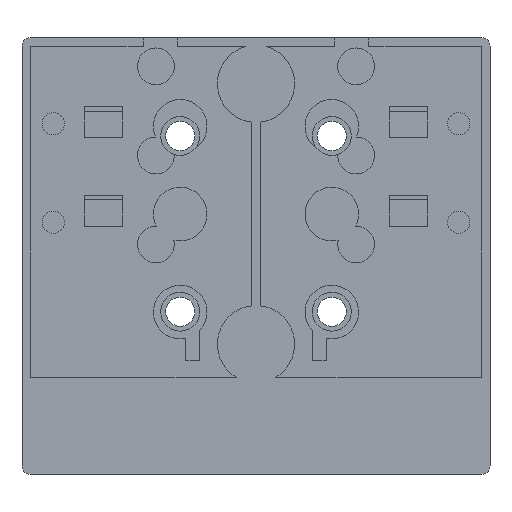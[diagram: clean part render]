
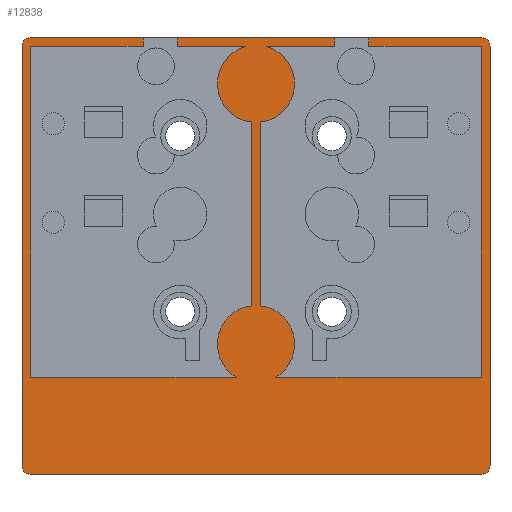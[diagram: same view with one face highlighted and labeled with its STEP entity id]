
A CAD part, front view. The second image highlights one B-rep face of the part: STEP entity #12838.
In plain terms, the highlighted planar face has unit normal (0, -1, 0).
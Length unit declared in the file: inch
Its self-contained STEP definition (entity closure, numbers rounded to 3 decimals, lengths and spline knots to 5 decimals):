
#658=PLANE('',#13779);
#1144=FACE_OUTER_BOUND('',#1890,.T.);
#1890=EDGE_LOOP('',(#8943,#8944,#8945,#8946,#8947,#8948,#8949,#8950,#8951,
#8952,#8953,#8954,#8955,#8956,#8957,#8958,#8959,#8960,#8961,#8962,#8963,
#8964,#8965,#8966,#8967,#8968,#8969,#8970));
#2703=LINE('',#18069,#4067);
#2730=LINE('',#18156,#4094);
#2731=LINE('',#18160,#4095);
#2732=LINE('',#18162,#4096);
#2733=LINE('',#18164,#4097);
#2734=LINE('',#18166,#4098);
#2735=LINE('',#18168,#4099);
#2736=LINE('',#18172,#4100);
#2737=LINE('',#18176,#4101);
#2738=LINE('',#18178,#4102);
#2739=LINE('',#18180,#4103);
#2740=LINE('',#18182,#4104);
#2741=LINE('',#18184,#4105);
#2742=LINE('',#18188,#4106);
#2743=LINE('',#18192,#4107);
#2744=LINE('',#18194,#4108);
#2745=LINE('',#18196,#4109);
#2746=LINE('',#18198,#4110);
#2747=LINE('',#18200,#4111);
#2748=LINE('',#18203,#4112);
#4067=VECTOR('',#14749,0.3937);
#4094=VECTOR('',#14814,0.3937);
#4095=VECTOR('',#14817,0.3937);
#4096=VECTOR('',#14818,0.3937);
#4097=VECTOR('',#14819,0.3937);
#4098=VECTOR('',#14820,0.3937);
#4099=VECTOR('',#14821,0.3937);
#4100=VECTOR('',#14824,0.3937);
#4101=VECTOR('',#14827,0.3937);
#4102=VECTOR('',#14828,0.3937);
#4103=VECTOR('',#14829,0.3937);
#4104=VECTOR('',#14830,0.3937);
#4105=VECTOR('',#14831,0.3937);
#4106=VECTOR('',#14834,0.3937);
#4107=VECTOR('',#14837,0.3937);
#4108=VECTOR('',#14838,0.3937);
#4109=VECTOR('',#14839,0.3937);
#4110=VECTOR('',#14840,0.3937);
#4111=VECTOR('',#14841,0.3937);
#4112=VECTOR('',#14844,0.3937);
#5427=CIRCLE('',#13758,0.06);
#5444=CIRCLE('',#13778,0.06);
#5445=CIRCLE('',#13780,0.06);
#5446=CIRCLE('',#13781,0.277);
#5447=CIRCLE('',#13782,0.277);
#5448=CIRCLE('',#13783,0.277);
#5449=CIRCLE('',#13784,0.277);
#5450=CIRCLE('',#13785,0.06);
#5718=VERTEX_POINT('',#18056);
#5719=VERTEX_POINT('',#18057);
#5723=VERTEX_POINT('',#18067);
#5763=VERTEX_POINT('',#18151);
#5764=VERTEX_POINT('',#18155);
#5765=VERTEX_POINT('',#18157);
#5766=VERTEX_POINT('',#18159);
#5767=VERTEX_POINT('',#18161);
#5768=VERTEX_POINT('',#18163);
#5769=VERTEX_POINT('',#18165);
#5770=VERTEX_POINT('',#18167);
#5771=VERTEX_POINT('',#18169);
#5772=VERTEX_POINT('',#18171);
#5773=VERTEX_POINT('',#18173);
#5774=VERTEX_POINT('',#18175);
#5775=VERTEX_POINT('',#18177);
#5776=VERTEX_POINT('',#18179);
#5777=VERTEX_POINT('',#18181);
#5778=VERTEX_POINT('',#18183);
#5779=VERTEX_POINT('',#18185);
#5780=VERTEX_POINT('',#18187);
#5781=VERTEX_POINT('',#18189);
#5782=VERTEX_POINT('',#18191);
#5783=VERTEX_POINT('',#18193);
#5784=VERTEX_POINT('',#18195);
#5785=VERTEX_POINT('',#18197);
#5786=VERTEX_POINT('',#18199);
#5787=VERTEX_POINT('',#18201);
#6970=EDGE_CURVE('',#5718,#5719,#5427,.T.);
#6976=EDGE_CURVE('',#5718,#5723,#2703,.T.);
#7018=EDGE_CURVE('',#5763,#5723,#5444,.T.);
#7019=EDGE_CURVE('',#5764,#5763,#2730,.T.);
#7020=EDGE_CURVE('',#5765,#5764,#5445,.T.);
#7021=EDGE_CURVE('',#5766,#5765,#2731,.T.);
#7022=EDGE_CURVE('',#5766,#5767,#2732,.T.);
#7023=EDGE_CURVE('',#5767,#5768,#2733,.T.);
#7024=EDGE_CURVE('',#5768,#5769,#2734,.T.);
#7025=EDGE_CURVE('',#5770,#5769,#2735,.T.);
#7026=EDGE_CURVE('',#5771,#5770,#5446,.T.);
#7027=EDGE_CURVE('',#5772,#5771,#2736,.T.);
#7028=EDGE_CURVE('',#5773,#5772,#5447,.T.);
#7029=EDGE_CURVE('',#5773,#5774,#2737,.T.);
#7030=EDGE_CURVE('',#5774,#5775,#2738,.T.);
#7031=EDGE_CURVE('',#5776,#5775,#2739,.T.);
#7032=EDGE_CURVE('',#5776,#5777,#2740,.T.);
#7033=EDGE_CURVE('',#5777,#5778,#2741,.T.);
#7034=EDGE_CURVE('',#5779,#5778,#5448,.T.);
#7035=EDGE_CURVE('',#5780,#5779,#2742,.T.);
#7036=EDGE_CURVE('',#5781,#5780,#5449,.T.);
#7037=EDGE_CURVE('',#5782,#5781,#2743,.T.);
#7038=EDGE_CURVE('',#5782,#5783,#2744,.T.);
#7039=EDGE_CURVE('',#5783,#5784,#2745,.T.);
#7040=EDGE_CURVE('',#5784,#5785,#2746,.T.);
#7041=EDGE_CURVE('',#5786,#5785,#2747,.T.);
#7042=EDGE_CURVE('',#5787,#5786,#5450,.T.);
#7043=EDGE_CURVE('',#5719,#5787,#2748,.T.);
#8943=ORIENTED_EDGE('',*,*,#6970,.F.);
#8944=ORIENTED_EDGE('',*,*,#6976,.T.);
#8945=ORIENTED_EDGE('',*,*,#7018,.F.);
#8946=ORIENTED_EDGE('',*,*,#7019,.F.);
#8947=ORIENTED_EDGE('',*,*,#7020,.F.);
#8948=ORIENTED_EDGE('',*,*,#7021,.F.);
#8949=ORIENTED_EDGE('',*,*,#7022,.T.);
#8950=ORIENTED_EDGE('',*,*,#7023,.T.);
#8951=ORIENTED_EDGE('',*,*,#7024,.T.);
#8952=ORIENTED_EDGE('',*,*,#7025,.F.);
#8953=ORIENTED_EDGE('',*,*,#7026,.F.);
#8954=ORIENTED_EDGE('',*,*,#7027,.F.);
#8955=ORIENTED_EDGE('',*,*,#7028,.F.);
#8956=ORIENTED_EDGE('',*,*,#7029,.T.);
#8957=ORIENTED_EDGE('',*,*,#7030,.T.);
#8958=ORIENTED_EDGE('',*,*,#7031,.F.);
#8959=ORIENTED_EDGE('',*,*,#7032,.T.);
#8960=ORIENTED_EDGE('',*,*,#7033,.T.);
#8961=ORIENTED_EDGE('',*,*,#7034,.F.);
#8962=ORIENTED_EDGE('',*,*,#7035,.F.);
#8963=ORIENTED_EDGE('',*,*,#7036,.F.);
#8964=ORIENTED_EDGE('',*,*,#7037,.F.);
#8965=ORIENTED_EDGE('',*,*,#7038,.T.);
#8966=ORIENTED_EDGE('',*,*,#7039,.T.);
#8967=ORIENTED_EDGE('',*,*,#7040,.T.);
#8968=ORIENTED_EDGE('',*,*,#7041,.F.);
#8969=ORIENTED_EDGE('',*,*,#7042,.F.);
#8970=ORIENTED_EDGE('',*,*,#7043,.F.);
#12838=ADVANCED_FACE('',(#1144),#658,.T.);
#13758=AXIS2_PLACEMENT_3D('',#18058,#14739,#14740);
#13778=AXIS2_PLACEMENT_3D('',#18153,#14810,#14811);
#13779=AXIS2_PLACEMENT_3D('',#18154,#14812,#14813);
#13780=AXIS2_PLACEMENT_3D('',#18158,#14815,#14816);
#13781=AXIS2_PLACEMENT_3D('',#18170,#14822,#14823);
#13782=AXIS2_PLACEMENT_3D('',#18174,#14825,#14826);
#13783=AXIS2_PLACEMENT_3D('',#18186,#14832,#14833);
#13784=AXIS2_PLACEMENT_3D('',#18190,#14835,#14836);
#13785=AXIS2_PLACEMENT_3D('',#18202,#14842,#14843);
#14739=DIRECTION('center_axis',(0.,1.,0.));
#14740=DIRECTION('ref_axis',(-0.707,0.,-0.707));
#14749=DIRECTION('',(1.,0.,0.));
#14810=DIRECTION('center_axis',(0.,1.,0.));
#14811=DIRECTION('ref_axis',(0.707,0.,-0.707));
#14812=DIRECTION('center_axis',(0.,-1.,0.));
#14813=DIRECTION('ref_axis',(0.,0.,-1.));
#14814=DIRECTION('',(0.,0.,-1.));
#14815=DIRECTION('center_axis',(0.,1.,0.));
#14816=DIRECTION('ref_axis',(0.707,0.,0.707));
#14817=DIRECTION('',(1.,0.,0.));
#14818=DIRECTION('',(0.,0.,-1.));
#14819=DIRECTION('',(1.,0.,0.));
#14820=DIRECTION('',(0.,0.,-1.));
#14821=DIRECTION('',(1.,0.,0.));
#14822=DIRECTION('center_axis',(0.,1.,0.));
#14823=DIRECTION('ref_axis',(-1.,0.,0.));
#14824=DIRECTION('',(0.,0.,-1.));
#14825=DIRECTION('center_axis',(0.,1.,0.));
#14826=DIRECTION('ref_axis',(-1.,0.,0.));
#14827=DIRECTION('',(1.,0.,0.));
#14828=DIRECTION('',(0.,0.,1.));
#14829=DIRECTION('',(1.,0.,0.));
#14830=DIRECTION('',(0.,0.,-1.));
#14831=DIRECTION('',(1.,0.,0.));
#14832=DIRECTION('center_axis',(0.,1.,0.));
#14833=DIRECTION('ref_axis',(-1.,0.,0.));
#14834=DIRECTION('',(0.,0.,1.));
#14835=DIRECTION('center_axis',(0.,1.,0.));
#14836=DIRECTION('ref_axis',(-1.,0.,0.));
#14837=DIRECTION('',(1.,0.,0.));
#14838=DIRECTION('',(0.,0.,1.));
#14839=DIRECTION('',(1.,0.,0.));
#14840=DIRECTION('',(0.,0.,1.));
#14841=DIRECTION('',(1.,0.,0.));
#14842=DIRECTION('center_axis',(0.,1.,0.));
#14843=DIRECTION('ref_axis',(-0.707,0.,0.707));
#14844=DIRECTION('',(0.,0.,1.));
#18056=CARTESIAN_POINT('',(-1.618,0.,-0.53));
#18057=CARTESIAN_POINT('',(-1.678,0.,-0.47));
#18058=CARTESIAN_POINT('Origin',(-1.618,0.,-0.47));
#18067=CARTESIAN_POINT('',(1.618,0.,-0.53));
#18069=CARTESIAN_POINT('',(1.10121,0.,-0.53));
#18151=CARTESIAN_POINT('',(1.678,0.,-0.47));
#18153=CARTESIAN_POINT('Origin',(1.618,0.,-0.47));
#18154=CARTESIAN_POINT('Origin',(0.,0.,0.35));
#18155=CARTESIAN_POINT('',(1.678,0.,2.54));
#18156=CARTESIAN_POINT('',(1.678,0.,2.6));
#18157=CARTESIAN_POINT('',(1.618,0.,2.6));
#18158=CARTESIAN_POINT('Origin',(1.618,0.,2.54));
#18159=CARTESIAN_POINT('',(0.81,0.,2.6));
#18160=CARTESIAN_POINT('',(-1.678,0.,2.6));
#18161=CARTESIAN_POINT('',(0.81,0.,2.5375));
#18162=CARTESIAN_POINT('',(0.81,0.,1.475));
#18163=CARTESIAN_POINT('',(1.6155,0.,2.5375));
#18164=CARTESIAN_POINT('',(-0.839,0.,2.5375));
#18165=CARTESIAN_POINT('',(1.6155,0.,0.165));
#18166=CARTESIAN_POINT('',(1.6155,0.,1.475));
#18167=CARTESIAN_POINT('',(0.14256,0.,0.165));
#18168=CARTESIAN_POINT('',(0.80775,0.,0.165));
#18169=CARTESIAN_POINT('',(0.03125,0.,0.67773));
#18170=CARTESIAN_POINT('Origin',(0.,0.,0.4025));
#18171=CARTESIAN_POINT('',(0.03125,0.,1.99477));
#18172=CARTESIAN_POINT('',(0.03125,0.,0.2575));
#18173=CARTESIAN_POINT('',(0.07192,0.,2.5375));
#18174=CARTESIAN_POINT('Origin',(0.,0.,2.27));
#18175=CARTESIAN_POINT('',(0.565,0.,2.5375));
#18176=CARTESIAN_POINT('',(-0.839,0.,2.5375));
#18177=CARTESIAN_POINT('',(0.565,0.,2.6));
#18178=CARTESIAN_POINT('',(0.565,0.,1.475));
#18179=CARTESIAN_POINT('',(-0.565,0.,2.6));
#18180=CARTESIAN_POINT('',(-1.678,0.,2.6));
#18181=CARTESIAN_POINT('',(-0.565,0.,2.5375));
#18182=CARTESIAN_POINT('',(-0.565,0.,1.475));
#18183=CARTESIAN_POINT('',(-0.07192,0.,2.5375));
#18184=CARTESIAN_POINT('',(-0.839,0.,2.5375));
#18185=CARTESIAN_POINT('',(-0.03125,0.,1.99477));
#18186=CARTESIAN_POINT('Origin',(0.,0.,2.27));
#18187=CARTESIAN_POINT('',(-0.03125,0.,0.67773));
#18188=CARTESIAN_POINT('',(-0.03125,0.,1.44375));
#18189=CARTESIAN_POINT('',(-0.14256,0.,0.165));
#18190=CARTESIAN_POINT('Origin',(0.,0.,0.4025));
#18191=CARTESIAN_POINT('',(-1.6155,0.,0.165));
#18192=CARTESIAN_POINT('',(-0.01562,0.,0.165));
#18193=CARTESIAN_POINT('',(-1.6155,0.,2.5375));
#18194=CARTESIAN_POINT('',(-1.6155,0.,-0.775));
#18195=CARTESIAN_POINT('',(-0.81,0.,2.5375));
#18196=CARTESIAN_POINT('',(-0.839,0.,2.5375));
#18197=CARTESIAN_POINT('',(-0.81,0.,2.6));
#18198=CARTESIAN_POINT('',(-0.81,0.,1.475));
#18199=CARTESIAN_POINT('',(-1.618,0.,2.6));
#18200=CARTESIAN_POINT('',(-1.678,0.,2.6));
#18201=CARTESIAN_POINT('',(-1.678,0.,2.54));
#18202=CARTESIAN_POINT('Origin',(-1.618,0.,2.54));
#18203=CARTESIAN_POINT('',(-1.678,0.,-1.9));
